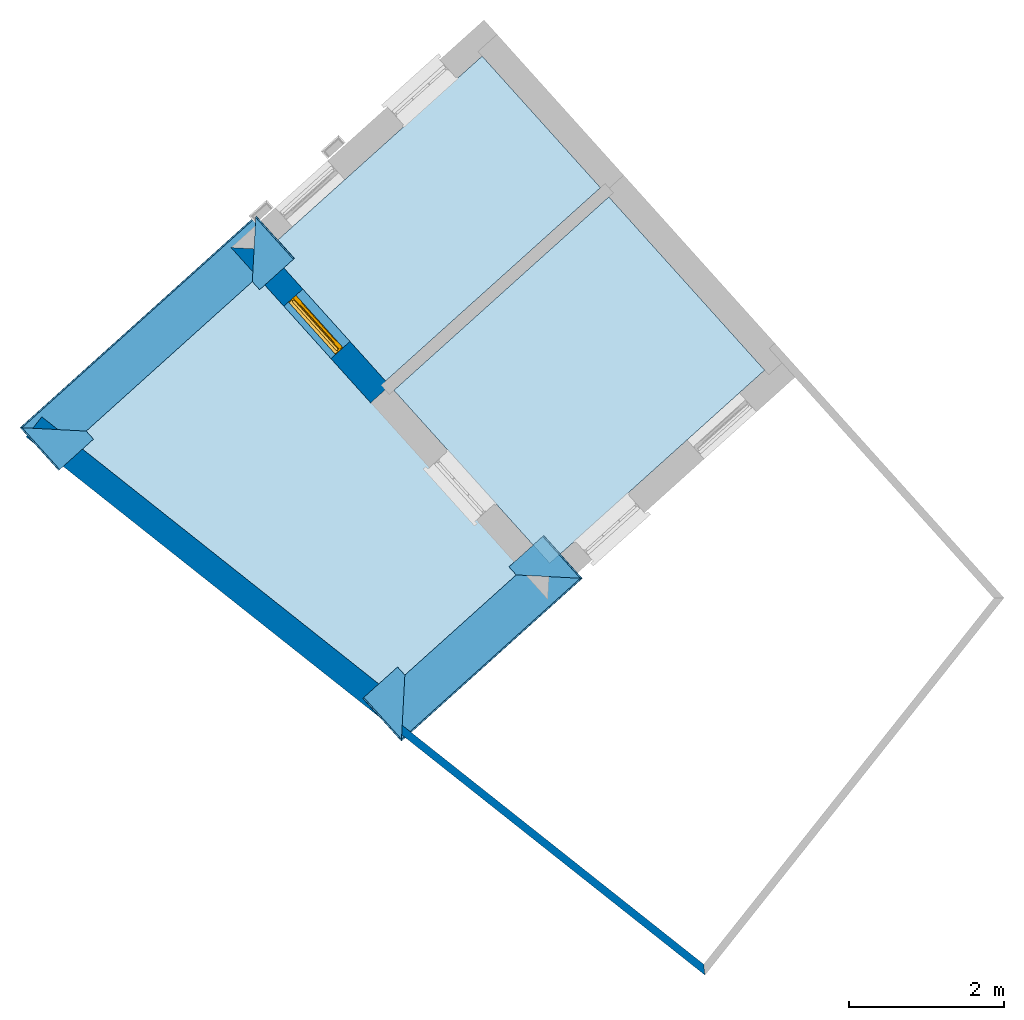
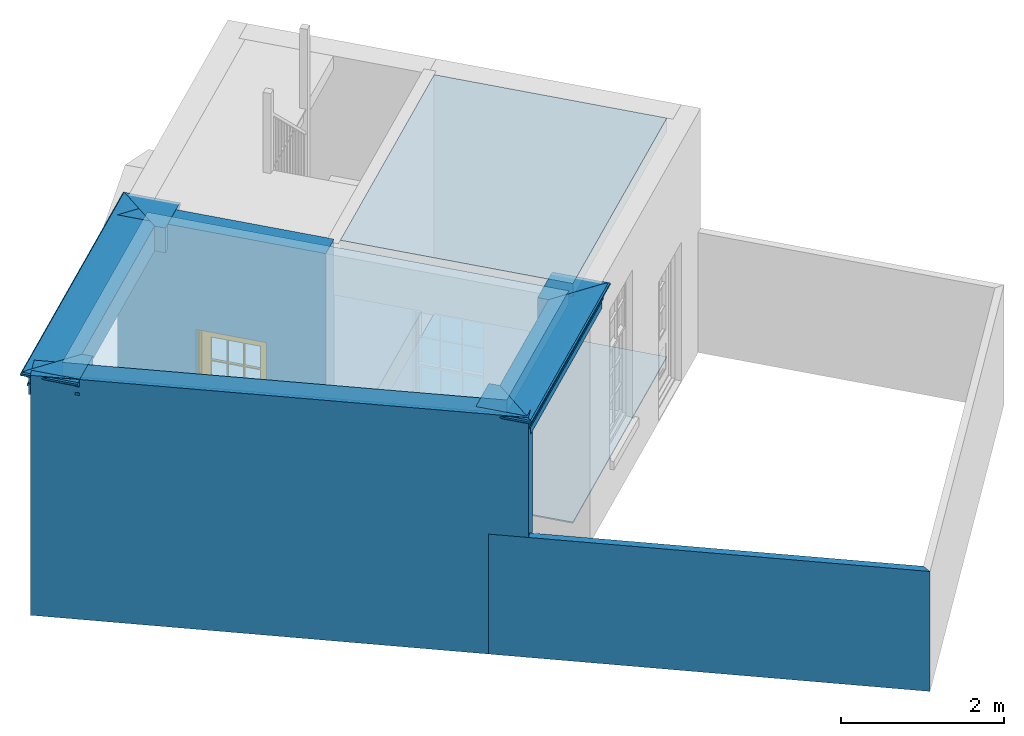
# One storey, part 1 of 6: 6 beams, 4 slabs, 3 walls, 1 door, 1 opening.
"""IFC4 building model written with IfcOpenShell, lengths in metres."""

from ifc_helpers import new_model, si_unit, frame, origin, origin_with_axes, place, context, subcontext, project, spatial, polyline, outline, extrude, clip, halfspace, faceted_brep, source, transform, mapped, material, layer, layer_set, layer_usage, material_profile, profile_set, profile_usage, type_object, type_shapes, element, fill, save


model = new_model("IFC4")

# Units and contexts
model_context = context("Model", 3, world=origin_with_axes())
body_context = subcontext(model_context, "Body", "Model", "MODEL_VIEW")
ifc_project = project(units=[si_unit("PLANEANGLEUNIT", "RADIAN"), si_unit("MASSUNIT", "GRAM", prefix="KILO"), si_unit("FORCEUNIT", "NEWTON", prefix="KILO"), si_unit("LENGTHUNIT", "METRE"), si_unit("AREAUNIT", "SQUARE_METRE"), si_unit("VOLUMEUNIT", "CUBIC_METRE")], contexts=[model_context, model_context])

# Sites, building, storey
site_1_placement = place(None, origin_with_axes())
site_1 = spatial("IfcSite", under=ifc_project, at=site_1_placement, Name="Tamar")
site_2_placement = place(site_1_placement, origin_with_axes())
site_2 = spatial("IfcSite", under=site_1, at=site_2_placement, Name="Site plot-6", CompositionType="ELEMENT")
building_placement = place(None, origin_with_axes())
building = spatial("IfcBuilding", under=site_2, at=building_placement, Name="Building plot-6", CompositionType="ELEMENT")
storey_placement = place(None, frame((0.0, 0.0, 24.5), z_axis=(0.0, 0.0, 1.0), x_axis=(1.0, 0.0, 0.0)))
storey = spatial("IfcBuildingStorey", under=building, at=storey_placement, Name="plot-6 0", CompositionType="ELEMENT", Elevation=24.5)

# Beams
ifc_material_profile_1 = material_profile(None, outline(polyline([(-0.26, 0.0), (-0.26, -0.37), (0.26, -0.37), (0.26, -0.235), (0.275, -0.235), (0.275, -0.2), (0.26, -0.2), (0.26, -0.11), (0.275, -0.11), (0.278, -0.098), (0.284, -0.089), (0.293, -0.083), (0.305, -0.08), (0.305, -0.065), (0.315, -0.065), (0.326, -0.063), (0.336, -0.056), (0.343, -0.047), (0.345, -0.035), (0.343, -0.023), (0.336, -0.014), (0.326, -0.007), (0.315, -0.005), (0.26, 0.0), (-0.26, 0.0)])))
ifc_profile_set_1 = profile_set([ifc_material_profile_1])
ifc_profile_usage_1 = profile_usage(ifc_profile_set_1)
beam_type_1 = type_object("IfcBeamType", Name="external beam_0", PredefinedType="NOTDEFINED", material=ifc_profile_set_1)
beam_1_placement = place(storey_placement, frame((236.549628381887, 275.581757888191, 3.6), z_axis=(-0.668853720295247, 0.743394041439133, 0.0), x_axis=(-0.743394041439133, -0.668853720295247, 0.0)))
element("IfcBeam", 1, at=beam_1_placement, inside=storey, type_object=beam_type_1, material=ifc_profile_usage_1, Name="external beam_0", context=body_context, shape_type="Clipping", body=[
    clip(clip(extrude(outline(polyline([(-0.26, 0.0), (-0.26, -0.37), (0.26, -0.37), (0.26, -0.235), (0.275, -0.235), (0.275, -0.2), (0.26, -0.2), (0.26, -0.11), (0.275, -0.11), (0.278, -0.098), (0.284, -0.089), (0.293, -0.083), (0.305, -0.08), (0.305, -0.065), (0.315, -0.065), (0.326, -0.063), (0.336, -0.056), (0.343, -0.047), (0.345, -0.035), (0.343, -0.023), (0.336, -0.014), (0.326, -0.007), (0.315, -0.005), (0.26, 0.0), (-0.26, 0.0)])), origin_with_axes(), (0.0, 0.0, 1.0), 2.4), halfspace(frame((0.0, 0.0, 1.4), z_axis=(-1.07193733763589e-14, 0.0, -1.0), x_axis=(0.0, 1.0, 0.0)), True)), halfspace(frame((0.0, 0.0, 1.0), z_axis=(-0.70710678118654, 0.0, -0.707106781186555), x_axis=(0.0, 1.0, 0.0)), False)),
])
ifc_profile_usage_2 = profile_usage(ifc_profile_set_1)
beam_2_placement = place(storey_placement, frame((238.447448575, 278.634464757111, 3.6), z_axis=(-0.743394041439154, -0.668853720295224, 0.0), x_axis=(0.668853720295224, -0.743394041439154, 0.0)))
element("IfcBeam", 2, at=beam_2_placement, inside=storey, type_object=beam_type_1, material=ifc_profile_usage_2, Name="external beam_0", context=body_context, shape_type="Clipping", body=[
    clip(clip(extrude(outline(polyline([(-0.26, 0.0), (-0.26, -0.37), (0.26, -0.37), (0.26, -0.235), (0.275, -0.235), (0.275, -0.2), (0.26, -0.2), (0.26, -0.11), (0.275, -0.11), (0.278, -0.098), (0.284, -0.089), (0.293, -0.083), (0.305, -0.08), (0.305, -0.065), (0.315, -0.065), (0.326, -0.063), (0.336, -0.056), (0.343, -0.047), (0.345, -0.035), (0.343, -0.023), (0.336, -0.014), (0.326, -0.007), (0.315, -0.005), (0.26, 0.0), (-0.26, 0.0)])), origin_with_axes(), (0.0, 0.0, 1.0), 4.4526425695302), halfspace(frame((0.0, 0.0, 3.4526425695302), z_axis=(0.707106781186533, 0.0, -0.707106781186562), x_axis=(0.0, 1.0, 0.0)), True)), halfspace(frame((0.0, 0.0, 1.0), z_axis=(-0.707106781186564, 0.0, -0.707106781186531), x_axis=(0.0, 1.0, 0.0)), False)),
])
ifc_profile_usage_3 = profile_usage(ifc_profile_set_1)
beam_3_placement = place(storey_placement, frame((236.767659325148, 279.00636269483, 3.6), z_axis=(0.668853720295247, -0.743394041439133, 0.0), x_axis=(0.743394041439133, 0.668853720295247, 0.0)))
element("IfcBeam", 3, at=beam_3_placement, inside=storey, type_object=beam_type_1, material=ifc_profile_usage_3, Name="external beam_0", context=body_context, shape_type="Clipping", body=[
    clip(clip(extrude(outline(polyline([(-0.26, 0.0), (-0.26, -0.37), (0.26, -0.37), (0.26, -0.235), (0.275, -0.235), (0.275, -0.2), (0.26, -0.2), (0.26, -0.11), (0.275, -0.11), (0.278, -0.098), (0.284, -0.089), (0.293, -0.083), (0.305, -0.08), (0.305, -0.065), (0.315, -0.065), (0.326, -0.063), (0.336, -0.056), (0.343, -0.047), (0.345, -0.035), (0.343, -0.023), (0.336, -0.014), (0.326, -0.007), (0.315, -0.005), (0.26, 0.0), (-0.26, 0.0)])), origin_with_axes(), (0.0, 0.0, 1.0), 2.4), halfspace(frame((0.0, 0.0, 1.4), z_axis=(0.707106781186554, 0.0, -0.707106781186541), x_axis=(0.0, 1.0, 0.0)), True)), halfspace(frame((0.0, 0.0, 1.0), z_axis=(-1.02752841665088e-14, 0.0, -1.0), x_axis=(0.0, 1.0, 0.0)), False)),
])
ifc_material_profile_2 = material_profile(None, outline(polyline([(-0.26, 0.0), (-0.26, -0.37), (0.26, -0.37), (0.26, -0.235), (0.275, -0.235), (0.275, -0.2), (0.26, -0.2), (0.26, -0.11), (0.275, -0.11), (0.278, -0.098), (0.284, -0.089), (0.293, -0.083), (0.305, -0.08), (0.305, -0.065), (0.315, -0.065), (0.326, -0.063), (0.336, -0.056), (0.343, -0.047), (0.345, -0.035), (0.343, -0.023), (0.336, -0.014), (0.326, -0.007), (0.315, -0.005), (0.26, 0.0), (-0.26, 0.0)])))
ifc_profile_set_2 = profile_set([ifc_material_profile_2])
ifc_profile_usage_4 = profile_usage(ifc_profile_set_2)
beam_type_2 = type_object("IfcBeamType", Name="external beam_0", PredefinedType="NOTDEFINED", material=ifc_profile_set_2)
beam_4_placement = place(storey_placement, frame((233.282487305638, 282.879939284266, 3.6), z_axis=(0.668853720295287, -0.743394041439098, 0.0), x_axis=(0.743394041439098, 0.668853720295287, 0.0)))
element("IfcBeam", 4, at=beam_4_placement, inside=storey, type_object=beam_type_2, material=ifc_profile_usage_4, Name="external beam_0", context=body_context, shape_type="Clipping", body=[
    clip(clip(extrude(outline(polyline([(-0.26, 0.0), (-0.26, -0.37), (0.26, -0.37), (0.26, -0.235), (0.275, -0.235), (0.275, -0.2), (0.26, -0.2), (0.26, -0.11), (0.275, -0.11), (0.278, -0.098), (0.284, -0.089), (0.293, -0.083), (0.305, -0.08), (0.305, -0.065), (0.315, -0.065), (0.326, -0.063), (0.336, -0.056), (0.343, -0.047), (0.345, -0.035), (0.343, -0.023), (0.336, -0.014), (0.326, -0.007), (0.315, -0.005), (0.26, 0.0), (-0.26, 0.0)])), origin_with_axes(), (0.0, 0.0, 1.0), 2.40000000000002), halfspace(frame((0.0, 0.0, 1.40000000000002), z_axis=(2.30314065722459e-14, 0.0, -1.0), x_axis=(0.0, 1.0, 0.0)), True)), halfspace(frame((0.0, 0.0, 1.0), z_axis=(-0.70710678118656, 0.0, -0.707106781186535), x_axis=(0.0, 1.0, 0.0)), False)),
])
ifc_profile_usage_5 = profile_usage(ifc_profile_set_2)
beam_5_placement = place(storey_placement, frame((230.677852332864, 279.19129014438, 3.6), z_axis=(0.7433940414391, 0.668853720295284, 0.0), x_axis=(-0.668853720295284, 0.7433940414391, 0.0)))
element("IfcBeam", 5, at=beam_5_placement, inside=storey, type_object=beam_type_2, material=ifc_profile_usage_5, Name="external beam_0", context=body_context, shape_type="Clipping", body=[
    clip(clip(extrude(outline(polyline([(-0.26, 0.0), (-0.26, -0.37), (0.26, -0.37), (0.26, -0.235), (0.275, -0.235), (0.275, -0.2), (0.26, -0.2), (0.26, -0.11), (0.275, -0.11), (0.278, -0.098), (0.284, -0.089), (0.293, -0.083), (0.305, -0.08), (0.305, -0.065), (0.315, -0.065), (0.326, -0.063), (0.336, -0.056), (0.343, -0.047), (0.345, -0.035), (0.343, -0.023), (0.336, -0.014), (0.326, -0.007), (0.315, -0.005), (0.26, 0.0), (-0.26, 0.0)])), origin_with_axes(), (0.0, 0.0, 1.0), 5.40343681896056), halfspace(frame((0.0, 0.0, 4.40343681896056), z_axis=(0.707106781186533, 0.0, -0.707106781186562), x_axis=(0.0, 1.0, 0.0)), True)), halfspace(frame((0.0, 0.0, 1.0), z_axis=(-0.707106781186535, 0.0, -0.70710678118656), x_axis=(0.0, 1.0, 0.0)), False)),
])
ifc_profile_usage_6 = profile_usage(ifc_profile_set_2)
beam_6_placement = place(storey_placement, frame((232.357641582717, 278.819392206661, 3.6), z_axis=(-0.668853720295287, 0.743394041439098, 0.0), x_axis=(-0.743394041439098, -0.668853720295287, 0.0)))
element("IfcBeam", 6, at=beam_6_placement, inside=storey, type_object=beam_type_2, material=ifc_profile_usage_6, Name="external beam_0", context=body_context, shape_type="Clipping", body=[
    clip(clip(extrude(outline(polyline([(-0.26, 0.0), (-0.26, -0.37), (0.26, -0.37), (0.26, -0.235), (0.275, -0.235), (0.275, -0.2), (0.26, -0.2), (0.26, -0.11), (0.275, -0.11), (0.278, -0.098), (0.284, -0.089), (0.293, -0.083), (0.305, -0.08), (0.305, -0.065), (0.315, -0.065), (0.326, -0.063), (0.336, -0.056), (0.343, -0.047), (0.345, -0.035), (0.343, -0.023), (0.336, -0.014), (0.326, -0.007), (0.315, -0.005), (0.26, 0.0), (-0.26, 0.0)])), origin_with_axes(), (0.0, 0.0, 1.0), 2.40000000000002), halfspace(frame((0.0, 0.0, 1.40000000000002), z_axis=(0.707106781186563, 0.0, -0.707106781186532), x_axis=(0.0, 1.0, 0.0)), True)), halfspace(frame((0.0, 0.0, 1.0), z_axis=(2.3697540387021e-14, 0.0, -1.0), x_axis=(0.0, 1.0, 0.0)), False)),
])

# Slabs
slab_1_placement = place(storey_placement, frame((238.531757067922, 282.862532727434, 3.4)))
element("IfcSlab", 7, at=slab_1_placement, inside=storey, Name="My Slab", ObjectType="Slab", PredefinedType="FLOOR", context=body_context, shape_type="SweptSolid", body=[
    extrude(outline(polyline([(0.0, 0.0), (-2.77333065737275, -2.49524804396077), (-0.762267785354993, -4.7304335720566), (2.01106287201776, -2.23518552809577), (0.0, 0.0)])), origin_with_axes(), (0.0, 0.0, 1.0), 0.2),
])
slab_2_placement = place(storey_placement, frame((238.531757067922, 282.862532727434, 0.0)))
element("IfcSlab", 8, at=slab_2_placement, inside=storey, Name="My Slab", ObjectType="Slab", PredefinedType="FLOOR", context=body_context, shape_type="SweptSolid", body=[
    extrude(outline(polyline([(0.0, 0.0), (-2.77333065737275, -2.49524804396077), (-0.762267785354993, -4.7304335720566), (2.01106287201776, -2.23518552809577), (0.0, 0.0)])), origin_with_axes(), (0.0, 0.0, 1.0), 0.02),
])
slab_3_placement = place(storey_placement, frame((237.650546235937, 278.02508256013, 3.4)))
element("IfcSlab", 9, at=slab_3_placement, inside=storey, Name="My Slab", ObjectType="Slab", PredefinedType="FLOOR", context=body_context, shape_type="SweptSolid", body=[
    extrude(outline(polyline([(0.0, 0.0), (-3.64569691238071, 4.05199115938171), (-6.16486551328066, 1.78542027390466), (-1.83251014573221, -1.64876385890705), (0.0, 0.0)])), origin_with_axes(), (0.0, 0.0, 1.0), 0.2),
])
slab_4_placement = place(storey_placement, frame((236.89712302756, 284.67933835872, 0.0)))
element("IfcSlab", 10, at=slab_4_placement, inside=storey, Name="My Slab", ObjectType="Slab", PredefinedType="FLOOR", context=body_context, shape_type="SweptSolid", body=[
    extrude(outline(polyline([(0.0, 0.0), (-2.77333065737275, -2.49524804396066), (-1.24571321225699, -4.19311062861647), (1.52761744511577, -1.69786258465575), (0.0, 0.0)])), origin_with_axes(), (0.0, 0.0, 1.0), 0.02),
])

# Wall, opening, door
ifc_material_1 = material(Name="Masonry")
ifc_layer_1 = layer(ifc_material_1, 0.33, ventilated=False)
ifc_layer_set_1 = layer_set([ifc_layer_1], Name="exterior_0.08_0.25")
ifc_layer_usage_1 = layer_usage(ifc_layer_set_1, "AXIS2", "POSITIVE", -0.25)
wall_type_1 = type_object("IfcWallType", Name="exterior_0.08_0.25", PredefinedType="SOLIDWALL", material=ifc_layer_set_1)
wall_1_placement = place(storey_placement, frame((234.010812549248, 282.190053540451, 0.0), z_axis=(0.0, 0.0, 1.0), x_axis=(0.668853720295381, -0.743394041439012, 0.0)))
wall_1 = element("IfcWall", 11, at=wall_1_placement, inside=storey, type_object=wall_type_1, material=ifc_layer_usage_1, Name="exterior", context=body_context, shape_type="SweptSolid", body=[
    extrude(outline(polyline([(0.0799999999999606, 0.0800000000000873), (-0.250000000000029, -0.250000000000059), (2.44393353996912, -0.250000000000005), (2.44393353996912, 0.0800000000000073), (0.0799999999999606, 0.0800000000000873)])), origin_with_axes(), (0.0, 0.0, 1.0), 3.6),
])
opening_placement = place(wall_1_placement, frame((0.766966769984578, 0.0, 0.0199999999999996)))
opening = element("IfcOpeningElement", 12, at=opening_placement, cuts=wall_1, Name="My Opening", ObjectType="Opening", context=body_context, shape_type="SweptSolid", body=[
    extrude(outline(polyline([(0.0, -0.270000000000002), (0.909999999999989, -0.27000000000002), (0.909999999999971, 1.1), (-1.80966353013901e-14, 1.10000000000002), (0.0, -0.270000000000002)])), origin_with_axes(), (0.0, 0.0, 1.0), 2.08),
])
door_type = type_object("IfcDoorType", Name="door_panelled", OperationType="SINGLE_SWING_LEFT", PredefinedType="NOTDEFINED")
shared_shape = source(origin(), body_context, "Body", "Brep", [
    faceted_brep([(0.545, 0.195, 0.265), (0.745, 0.195, 0.265), (0.745, 0.2, 0.265), (0.545, 0.2, 0.265), (0.745, 0.2, 0.58), (0.545, 0.2, 0.58), (0.545, 0.195, 0.58), (0.515, 0.19, 0.235), (0.775, 0.19, 0.235), (0.745, 0.195, 0.58), (0.515, 0.19, 0.61), (0.515, 0.185, 0.235), (0.775, 0.185, 0.235), (0.775, 0.19, 0.61), (0.515, 0.185, 0.61), (0.785, 0.185, 0.225), (0.505, 0.185, 0.225), (0.775, 0.185, 0.61), (0.505, 0.185, 0.62), (0.785, 0.185, 0.62), (0.505, 0.18, 0.225), (0.785, 0.18, 0.225), (0.505, 0.18, 0.62), (0.785, 0.18, 0.62), (0.883, 0.18, 0.075), (0.898, 0.18, 0.075), (0.405, 0.18, 0.62), (0.405, 0.18, 0.225), (0.027, 0.18, 0.075), (0.785, 0.18, 0.82), (0.125, 0.18, 0.82), (0.405, 0.185, 0.62), (0.405, 0.185, 0.225), (0.898, 0.18, 2.068), (0.027, 0.17, 0.075), (0.883, 0.17, 0.075), (0.125, 0.18, 0.225), (0.012, 0.18, 0.075), (0.785, 0.19, 0.82), (0.125, 0.19, 0.82), (0.125, 0.18, 0.62), (0.125, 0.185, 0.62), (0.395, 0.185, 0.61), (0.395, 0.185, 0.235), (0.125, 0.185, 0.225), (0.785, 0.18, 1.895), (0.027, 0.14, 0.045), (0.883, 0.14, 0.045), (0.558333, 0.19, 0.83), (0.351667, 0.19, 0.83), (0.125, 0.18, 1.895), (0.125, 0.19, 1.895), (0.785, 0.19, 1.895), (0.012, 0.18, 2.068), (0.135, 0.185, 0.61), (0.395, 0.19, 0.61), (0.395, 0.19, 0.235), (0.135, 0.185, 0.235), (0.027, 0.14, 0.027), (0.883, 0.14, 0.027), (0.568333, 0.19, 0.83), (0.558333, 0.22, 0.83), (0.351667, 0.22, 0.83), (0.341667, 0.19, 0.83), (0.135, 0.19, 1.185), (0.135, 0.19, 1.53), (0.775, 0.19, 1.53), (0.775, 0.19, 1.185), (0.135, 0.19, 0.61), (0.365, 0.195, 0.58), (0.365, 0.195, 0.265), (0.135, 0.19, 0.235), (0.568333, 0.19, 1.175), (0.558333, 0.19, 1.175), (0.775, 0.19, 0.83), (0.558333, 0.22, 1.175), (0.785, 0.22, 0.82), (0.125, 0.22, 0.82), (0.351667, 0.22, 1.175), (0.351667, 0.19, 1.175), (0.341667, 0.19, 1.175), (0.135, 0.19, 0.83), (0.135, 0.19, 1.175), (0.135, 0.22, 1.185), (0.135, 0.22, 1.53), (0.135, 0.19, 1.54), (0.351667, 0.19, 1.885), (0.558333, 0.19, 1.885), (0.775, 0.22, 1.53), (0.775, 0.22, 1.185), (0.775, 0.19, 1.175), (0.775, 0.19, 1.54), (0.165, 0.195, 0.58), (0.365, 0.2, 0.58), (0.365, 0.2, 0.265), (0.165, 0.195, 0.265), (0.568333, 0.22, 0.83), (0.568333, 0.22, 1.175), (0.568333, 0.19, 1.185), (0.558333, 0.19, 1.185), (0.775, 0.22, 0.83), (0.785, 0.23, 0.82), (0.125, 0.23, 0.82), (0.341667, 0.22, 0.83), (0.341667, 0.22, 1.175), (0.351667, 0.19, 1.185), (0.341667, 0.19, 1.185), (0.135, 0.22, 0.83), (0.341667, 0.22, 1.185), (0.125, 0.22, 1.895), (0.341667, 0.22, 1.53), (0.341667, 0.19, 1.53), (0.135, 0.19, 1.885), (0.341667, 0.19, 1.54), (0.341667, 0.19, 1.885), (0.558333, 0.22, 1.885), (0.351667, 0.22, 1.885), (0.568333, 0.19, 1.885), (0.785, 0.22, 1.895), (0.568333, 0.22, 1.185), (0.568333, 0.19, 1.53), (0.568333, 0.22, 1.53), (0.568333, 0.19, 1.54), (0.775, 0.19, 1.885), (0.165, 0.2, 0.58), (0.165, 0.2, 0.265), (0.775, 0.22, 1.175), (0.558333, 0.19, 1.53), (0.351667, 0.22, 1.185), (0.558333, 0.22, 1.185), (0.505, 0.23, 0.62), (0.405, 0.23, 0.62), (0.125, 0.23, 1.895), (0.785, 0.23, 1.895), (0.351667, 0.19, 1.53), (0.135, 0.22, 1.175), (0.135, 0.22, 1.54), (0.341667, 0.22, 1.54), (0.135, 0.22, 1.885), (0.351667, 0.19, 1.54), (0.558333, 0.22, 1.54), (0.558333, 0.19, 1.54), (0.351667, 0.22, 1.54), (0.775, 0.22, 1.54), (0.568333, 0.22, 1.54), (0.775, 0.22, 1.885), (0.558333, 0.22, 1.53), (0.405, 0.23, 0.225), (0.505, 0.23, 0.225), (0.125, 0.23, 0.62), (0.785, 0.23, 0.62), (0.012, 0.23, 2.068), (0.898, 0.23, 2.068), (0.351667, 0.22, 1.53), (0.341667, 0.22, 1.885), (0.568333, 0.22, 1.885), (0.405, 0.225, 0.225), (0.405, 0.225, 0.62), (0.505, 0.225, 0.62), (0.505, 0.225, 0.225), (0.898, 0.23, 0.027), (0.012, 0.23, 0.027), (0.125, 0.225, 0.62), (0.785, 0.225, 0.62), (0.395, 0.225, 0.235), (0.395, 0.225, 0.61), (0.125, 0.23, 0.225), (0.125, 0.225, 0.225), (0.515, 0.225, 0.61), (0.515, 0.225, 0.235), (0.785, 0.23, 0.225), (0.785, 0.225, 0.225), (0.135, 0.225, 0.61), (0.775, 0.225, 0.61), (0.135, 0.225, 0.235), (0.395, 0.22, 0.235), (0.395, 0.22, 0.61), (0.515, 0.22, 0.61), (0.515, 0.22, 0.235), (0.775, 0.225, 0.235), (0.135, 0.22, 0.61), (0.775, 0.22, 0.61), (0.135, 0.22, 0.235), (0.365, 0.215, 0.265), (0.365, 0.215, 0.58), (0.545, 0.215, 0.58), (0.545, 0.215, 0.265), (0.775, 0.22, 0.235), (0.165, 0.215, 0.58), (0.745, 0.215, 0.58), (0.165, 0.215, 0.265), (0.365, 0.21, 0.58), (0.365, 0.21, 0.265), (0.545, 0.21, 0.58), (0.545, 0.21, 0.265), (0.745, 0.215, 0.265), (0.165, 0.21, 0.58), (0.745, 0.21, 0.58), (0.165, 0.21, 0.265), (0.745, 0.21, 0.265), (0.885, 0.178, 0.025), (0.025, 0.178, 0.025), (0.025, 0.15, 0.025), (0.885, 0.15, 0.025), (0.9, 0.23, 0.025), (0.01, 0.23, 0.025), (0.9, 0.178, 0.025), (0.91, 0.23, 0.0), (0.0, 0.23, 0.0), (0.01, 0.178, 0.025), (0.9, 0.178, 2.07), (0.9, 0.23, 2.07), (0.885, 0.178, 2.055), (0.91, 0.23, 2.08), (0.01, 0.23, 2.07), (0.0, 0.23, 2.08), (0.01, 0.178, 2.07), (0.025, 0.178, 2.055), (0.0, 0.1, 2.08), (0.91, 0.1, 2.08), (0.01, 0.1, 2.07), (0.9, 0.1, 2.07), (0.01, 0.15, 2.07), (0.9, 0.15, 2.07), (0.0, 0.1, 0.0), (0.91, 0.1, 0.0), (0.01, 0.1, 0.025), (0.9, 0.1, 0.025), (0.01, 0.15, 0.025), (0.025, 0.15, 2.055), (0.9, 0.15, 0.025), (0.885, 0.15, 2.055), (0.898, 0.18, 0.027), (0.012, 0.18, 0.027), (0.883, 0.18, 0.027), (0.027, 0.18, 0.027)], [[[0, 1, 2, 3]], [[2, 4, 5, 3]], [[0, 3, 5, 6]], [[1, 0, 7, 8]], [[9, 4, 2, 1]], [[9, 6, 5, 4]], [[0, 6, 10, 7]], [[8, 7, 11, 12]], [[8, 13, 9, 1]], [[13, 10, 6, 9]], [[7, 10, 14, 11]], [[15, 12, 11, 16]], [[12, 17, 13, 8]], [[17, 14, 10, 13]], [[18, 16, 11, 14]], [[15, 19, 17, 12]], [[15, 16, 20, 21]], [[14, 17, 19, 18]], [[16, 18, 22, 20]], [[21, 23, 19, 15]], [[24, 25, 21, 20]], [[23, 22, 18, 19]], [[20, 22, 26, 27]], [[23, 21, 25]], [[28, 24, 20, 27]], [[22, 23, 29]], [[29, 30, 26, 22]], [[27, 26, 31, 32]], [[23, 25, 33, 29]], [[34, 35, 24, 28]], [[28, 27, 36, 37]], [[38, 39, 30, 29]], [[26, 30, 40]], [[26, 40, 41, 31]], [[42, 43, 32, 31]], [[32, 44, 36, 27]], [[33, 45, 29]], [[46, 47, 35, 34]], [[36, 40, 37]], [[39, 38, 48, 49]], [[50, 30, 39, 51]], [[29, 45, 52, 38]], [[53, 37, 40, 30]], [[44, 41, 40, 36]], [[31, 41, 54, 42]], [[43, 42, 55, 56]], [[57, 44, 32, 43]], [[50, 45, 33, 53]], [[47, 46, 58, 59]], [[60, 48, 38]], [[49, 48, 61, 62]], [[49, 63, 39]], [[50, 53, 30]], [[51, 39, 64, 65]], [[45, 50, 51, 52]], [[66, 67, 38, 52]], [[57, 54, 41, 44]], [[42, 54, 68, 55]], [[56, 55, 69, 70]], [[56, 71, 57, 43]], [[60, 72, 73, 48]], [[60, 38, 74]], [[48, 73, 75, 61]], [[76, 77, 62, 61]], [[62, 78, 79, 49]], [[49, 79, 80, 63]], [[63, 81, 39]], [[82, 64, 39]], [[65, 64, 83, 84]], [[85, 51, 65]], [[52, 51, 86, 87]], [[88, 89, 67, 66]], [[90, 38, 67]], [[91, 66, 52]], [[71, 68, 54, 57]], [[55, 68, 92, 69]], [[69, 93, 94, 70]], [[70, 95, 71, 56]], [[96, 97, 72, 60]], [[73, 72, 98, 99]], [[74, 38, 90]], [[100, 96, 60, 74]], [[75, 73, 79, 78]], [[61, 75, 97, 96]], [[101, 102, 77, 76]], [[77, 103, 62]], [[96, 76, 61]], [[103, 104, 78, 62]], [[80, 79, 105, 106]], [[63, 80, 104, 103]], [[81, 63, 103, 107]], [[81, 82, 39]], [[106, 64, 82, 80]], [[106, 108, 83, 64]], [[84, 83, 77, 109]], [[110, 111, 65, 84]], [[112, 51, 85]], [[113, 85, 65, 111]], [[114, 86, 51]], [[115, 87, 86, 116]], [[117, 52, 87]], [[118, 76, 89, 88]], [[119, 98, 67, 89]], [[120, 121, 88, 66]], [[67, 98, 72, 90]], [[91, 122, 120, 66]], [[91, 52, 123]], [[95, 92, 68, 71]], [[69, 92, 124, 93]], [[94, 93, 124, 125]], [[94, 125, 95, 70]], [[72, 97, 126, 90]], [[127, 99, 98, 120]], [[99, 105, 79, 73]], [[74, 90, 126, 100]], [[96, 100, 76]], [[128, 129, 75, 78]], [[97, 75, 129, 119]], [[130, 131, 102, 101]], [[109, 77, 102, 132]], [[133, 101, 76, 118]], [[77, 107, 103]], [[78, 104, 108, 128]], [[111, 106, 105, 134]], [[104, 80, 82, 135]], [[107, 135, 82, 81]], [[110, 108, 106, 111]], [[104, 135, 83, 108]], [[83, 135, 77]], [[136, 84, 109]], [[110, 84, 136, 137]], [[114, 51, 112]], [[85, 136, 138, 112]], [[113, 137, 136, 85]], [[111, 134, 139, 113]], [[86, 114, 113, 139]], [[140, 141, 87, 115]], [[139, 142, 116, 86]], [[109, 118, 115, 116]], [[117, 123, 52]], [[117, 87, 141, 122]], [[126, 89, 76]], [[143, 118, 88]], [[120, 98, 119, 121]], [[119, 89, 126, 97]], [[144, 143, 88, 121]], [[144, 122, 91, 143]], [[127, 120, 122, 141]], [[143, 91, 123, 145]], [[124, 92, 95, 125]], [[146, 129, 99, 127]], [[99, 129, 128, 105]], [[100, 126, 76]], [[121, 119, 129, 146]], [[147, 131, 130, 148]], [[131, 149, 102]], [[130, 101, 150]], [[102, 151, 132]], [[118, 109, 132, 133]], [[101, 133, 152]], [[107, 77, 135]], [[153, 128, 108, 110]], [[134, 105, 128, 153]], [[109, 138, 136]], [[153, 110, 137, 142]], [[154, 114, 112, 138]], [[137, 113, 114, 154]], [[141, 139, 134, 127]], [[141, 140, 142, 139]], [[144, 140, 115, 155]], [[142, 137, 154, 116]], [[155, 115, 118]], [[116, 154, 109]], [[117, 155, 145, 123]], [[122, 144, 155, 117]], [[143, 145, 118]], [[121, 146, 140, 144]], [[146, 127, 134, 153]], [[156, 157, 131, 147]], [[148, 130, 158, 159]], [[148, 160, 161, 147]], [[157, 162, 149, 131]], [[161, 151, 102, 149]], [[101, 152, 160, 150]], [[163, 158, 130, 150]], [[151, 152, 133, 132]], [[154, 138, 109]], [[142, 140, 146, 153]], [[145, 155, 118]], [[157, 156, 164, 165]], [[147, 166, 167, 156]], [[168, 169, 159, 158]], [[170, 148, 159, 171]], [[148, 170, 160]], [[166, 147, 161]], [[172, 162, 157, 165]], [[166, 149, 162, 167]], [[166, 161, 149]], [[150, 160, 170]], [[163, 173, 168, 158]], [[171, 163, 150, 170]], [[174, 164, 156, 167]], [[175, 176, 165, 164]], [[169, 168, 177, 178]], [[171, 159, 169, 179]], [[167, 162, 172, 174]], [[176, 180, 172, 165]], [[179, 173, 163, 171]], [[181, 177, 168, 173]], [[164, 174, 182, 175]], [[183, 184, 176, 175]], [[178, 177, 185, 186]], [[179, 169, 178, 187]], [[174, 172, 180, 182]], [[184, 188, 180, 176]], [[187, 181, 173, 179]], [[189, 185, 177, 181]], [[175, 182, 190, 183]], [[191, 184, 183, 192]], [[185, 193, 194, 186]], [[187, 178, 186, 195]], [[182, 180, 188, 190]], [[191, 196, 188, 184]], [[195, 189, 181, 187]], [[197, 193, 185, 189]], [[183, 190, 198, 192]], [[198, 196, 191, 192]], [[194, 193, 197, 199]], [[195, 186, 194, 199]], [[188, 196, 198, 190]], [[197, 189, 195, 199]], [[200, 201, 202, 203]], [[201, 200, 204, 205]], [[206, 204, 200]], [[204, 207, 208, 205]], [[209, 201, 205]], [[210, 211, 204, 206]], [[206, 200, 212, 210]], [[211, 213, 207, 204]], [[214, 205, 208, 215]], [[216, 217, 201, 209]], [[205, 214, 216, 209]], [[216, 214, 211, 210]], [[210, 212, 217, 216]], [[214, 215, 213, 211]], [[218, 219, 213, 215]], [[219, 218, 220, 221]], [[221, 220, 222, 223]], [[215, 208, 224, 218]], [[225, 224, 208, 207]], [[224, 226, 220, 218]], [[224, 225, 227, 226]], [[219, 225, 207, 213]], [[228, 222, 220, 226]], [[219, 221, 227, 225]], [[226, 227, 203, 202]], [[202, 229, 222, 228]], [[228, 226, 202]], [[227, 221, 223, 230]], [[230, 203, 227]], [[217, 229, 202, 201]], [[231, 223, 222, 229]], [[230, 223, 231, 203]], [[231, 229, 217, 212]], [[212, 200, 203, 231]], [[33, 152, 151, 53]], [[25, 160, 152, 33]], [[161, 37, 53, 151]], [[232, 160, 25]], [[161, 233, 37]], [[160, 232, 234]], [[24, 234, 232, 25]], [[233, 161, 235]], [[37, 233, 235, 28]], [[161, 160, 234, 235]], [[35, 47, 234, 24]], [[28, 235, 46, 34]], [[58, 235, 234, 59]], [[59, 234, 47]], [[58, 46, 235]]]),
])
type_shapes(door_type, [shared_shape])
door_placement = place(storey_placement, frame((234.323084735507, 281.439304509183, 0.0199999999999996), z_axis=(0.0, 0.0, 1.0), x_axis=(0.608656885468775, -0.676488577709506, 0.0)))
door = element("IfcDoor", 13, at=door_placement, inside=storey, type_object=door_type, Name="circulation sahn door", OverallHeight=2.08, OverallWidth=0.91, context=body_context, shape_type="MappedRepresentation", body=[
    mapped(shared_shape, transform((0.0, 0.0, 0.0), scale=1.0)),
])
fill(opening, door)

# Walls
ifc_material_2 = material(Name="Masonry")
ifc_layer_2 = layer(ifc_material_2, 0.33, ventilated=False)
ifc_layer_set_2 = layer_set([ifc_layer_2], Name="party_0.08_0.25")
ifc_layer_usage_2 = layer_usage(ifc_layer_set_2, "AXIS2", "POSITIVE", -0.25)
wall_type_2 = type_object("IfcWallType", Name="party_0.08_0.25", PredefinedType="SOLIDWALL", material=ifc_layer_set_2)
wall_2_placement = place(storey_placement, frame((231.361774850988, 279.806635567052, 0.0), z_axis=(0.0, 0.0, 1.0), x_axis=(0.783658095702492, -0.621192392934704, 0.0)))
element("IfcWall", 14, at=wall_2_placement, inside=storey, type_object=wall_type_2, material=ifc_layer_usage_2, Name="party", context=body_context, shape_type="SweptSolid", body=[
    extrude(outline(polyline([(-0.250000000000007, 0.0800000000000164), (-0.249999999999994, -0.250000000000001), (5.94065554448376, -0.250000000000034), (5.94065554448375, 0.0799999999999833), (-0.250000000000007, 0.0800000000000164)])), origin_with_axes(), (0.0, 0.0, 1.0), 3.6),
])
ifc_material_3 = material(Name="Masonry")
ifc_layer_3 = layer(ifc_material_3, 0.1, ventilated=False)
ifc_layer_set_3 = layer_set([ifc_layer_3], Name="fence_-0.15_0.25")
ifc_layer_usage_3 = layer_usage(ifc_layer_set_3, "AXIS2", "POSITIVE", -0.25)
wall_type_3 = type_object("IfcWallType", Name="fence_-0.15_0.25", PredefinedType="SOLIDWALL", material=ifc_layer_set_3)
wall_3_placement = place(storey_placement, frame((235.821303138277, 276.271643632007, 0.0), z_axis=(0.0, 0.0, 1.0), x_axis=(0.783658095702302, -0.621192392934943, 0.0)))
element("IfcWall", 15, at=wall_3_placement, inside=storey, type_object=wall_type_3, material=ifc_layer_usage_3, Name="fence", context=body_context, shape_type="SweptSolid", body=[
    extrude(outline(polyline([(-0.250000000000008, -0.149999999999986), (-0.250000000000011, -0.250000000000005), (5.24035725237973, -0.250000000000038), (5.1403572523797, -0.149999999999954), (-0.250000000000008, -0.149999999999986)])), origin_with_axes(), (0.0, 0.0, 1.0), 1.8),
])

save(model, "model.ifc")
